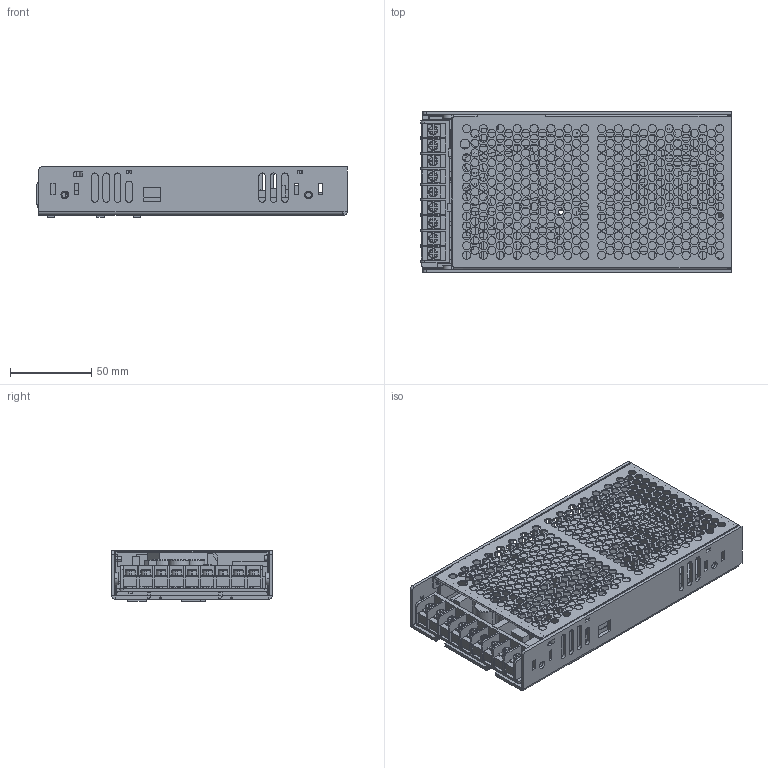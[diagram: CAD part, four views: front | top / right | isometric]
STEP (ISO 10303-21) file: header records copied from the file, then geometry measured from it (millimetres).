
FILE_DESCRIPTION((''),'2;1');
FILE_NAME('LPD-200-12','2022-08-19T13:57:24',('huangxiufeng'),(''),'CREO PARAMETRIC BY PTC INC, 2017260','CREO PARAMETRIC BY PTC INC, 2017260','');
FILE_SCHEMA(('AUTOMOTIVE_DESIGN { 1 0 10303 214 1 1 1 1 }'));
Products named in the file (1): LPD-200-12
Bounding box: 191.4 x 99 x 31.05 mm (x, y, z)
Surface area: 211123.1 mm2 (no closed solid volume)
Topology: 0 solids, 210 shells, 2558 faces, 7616 edges, 5223 vertices
Faces by surface type: plane 1424, cylinder 1070, torus 42, cone 22
Entity records: 87725 total; most frequent: CARTESIAN_POINT 16041, DIRECTION 15033, ORIENTED_EDGE 13612, EDGE_CURVE 7616, VERTEX_POINT 5223, AXIS2_PLACEMENT_3D 5014, VECTOR 5005, LINE 5005
